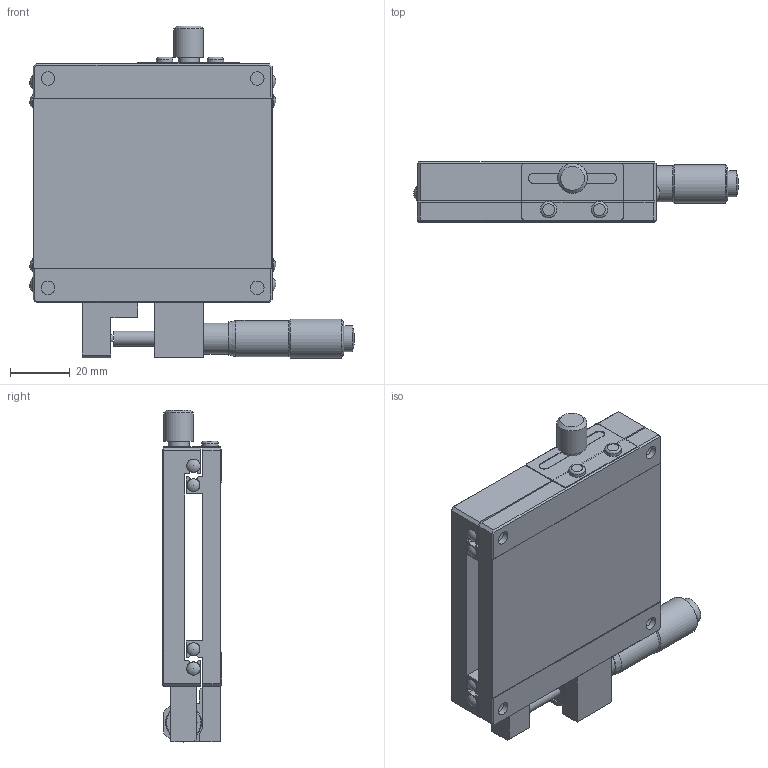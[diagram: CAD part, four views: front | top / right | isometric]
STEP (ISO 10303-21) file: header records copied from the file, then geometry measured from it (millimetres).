
FILE_DESCRIPTION(/* description */ ('STEP AP214'),/* implementation_level */ '2;1');
FILE_NAME(/* name */ 'LBX80-R',/* time_stamp */ '2024-09-23T03:21:29+02:00',/* author */ ('License CC BY-ND 4.0'),/* organization */ ('CADENAS'),/* preprocessor_version */ 'ST-DEVELOPER v19.3',/* originating_system */ 'PARTsolutions',/* authorisation */ ' ');
FILE_SCHEMA (('AUTOMOTIVE_DESIGN {1 0 10303 214 3 1 1}'));
Length unit declared in the file: millimetre
Products named in the file (4): LBX80-R; LB80R_XG; LB80R_SG; MT_WT_25_P_13
Assembly tree (3 placements, depth 2):
  LBX80-R
    LB80R_XG
    LB80R_SG
    MT_WT_25_P_13
Bounding box: 108.7 x 20 x 111.1 mm (x, y, z)
Volume: 109659.9 mm3; surface area: 44656.3 mm2
Topology: 3 solids, 3 shells, 225 faces, 510 edges, 321 vertices
Faces by surface type: plane 136, cylinder 64, cone 11, sphere 10, torus 4
Full cylindrical faces by diameter (mm): 3 x1, 3.242 x13, 4.3 x4, 4.5 x8, 5 x3, 5.5 x6, 6 x4, 7 x1, 8 x4, 8.734 x1, 9 x1, 10 x1, 10.4 x1, 10.6 x1, 12 x1, 12.102 x1, 13.002 x1
Entity records: 5775 total; most frequent: DIRECTION 1034, CARTESIAN_POINT 935, ORIENTED_EDGE 818, EDGE_CURVE 409, AXIS2_PLACEMENT_3D 396, EDGE_LOOP 342, FACE_BOUND 342, VERTEX_POINT 297
